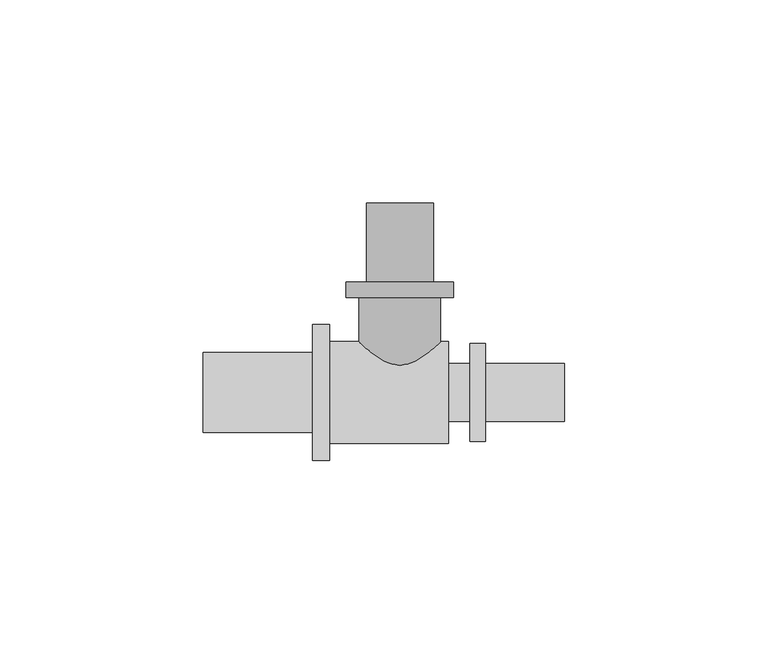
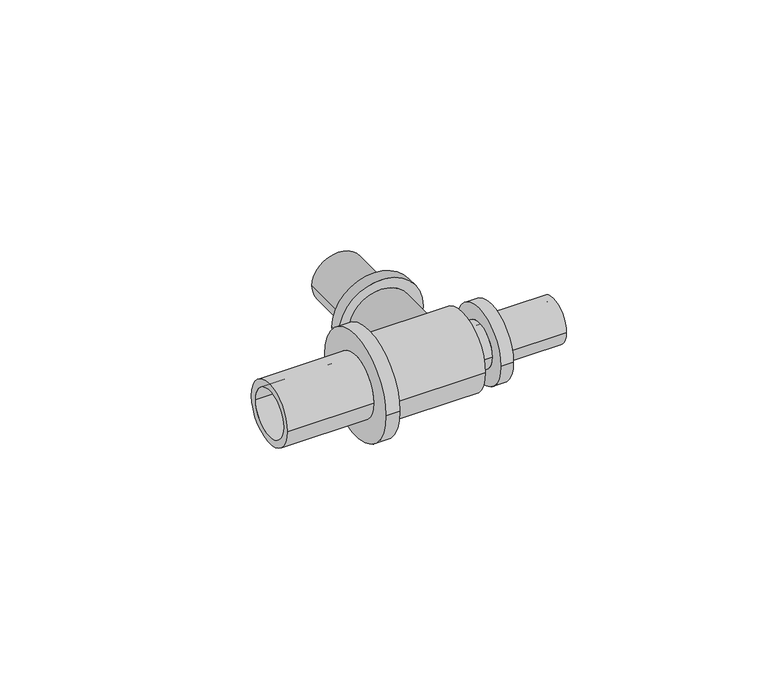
"""IFC4 building model written with IfcOpenShell, lengths in millimetres: pipe fitting geometry, RAUTITAN_T-piece_LX : RTI LX T DN."""

import ifcopenshell
import ifcopenshell.guid

model = None  # the IFC model being written
_history = None  # IfcOwnerHistory: only IFC2X3 demands one
_inside = {}  # id of a spatial element -> (the spatial element, [elements in it])
_under = {}  # id of a project, library or spatial element -> (it, [spatial elements below it])
_declared = {}  # id of a project -> (the project, [libraries it declares])
_typed = {}  # id of a type object -> (the type object, [elements of that type])
_made_of = {}  # id of a material, layer set ... -> (it, [elements and type objects made of it])


def new_model(schema):
    """Start an empty IFC model of exactly this schema.

    Asked for "IFC4X3", IfcOpenShell would pick the latest addendum, in which some entities
    have other attributes; the version numbers below select the first issue.
    IFC2X3 requires an IfcOwnerHistory on every rooted entity: one is made here for all.
    """
    global model, _history
    if schema == "IFC4X3":
        model = ifcopenshell.file(schema_version=(4, 3, 0, 0))
    else:
        model = ifcopenshell.file(schema=schema)
    _inside.clear()
    _under.clear()
    _declared.clear()
    _typed.clear()
    _made_of.clear()
    _history = None
    if model.schema == "IFC2X3":
        org = make("IfcOrganization", Name="unknown")
        user = make(
            "IfcPersonAndOrganization",
            ThePerson=make("IfcPerson", FamilyName="unknown"),
            TheOrganization=org,
        )
        app = make(
            "IfcApplication",
            ApplicationDeveloper=org,
            Version="unknown",
            ApplicationFullName="unknown",
            ApplicationIdentifier="unknown",
        )
        _history = make(
            "IfcOwnerHistory",
            OwningUser=user,
            OwningApplication=app,
            ChangeAction="ADDED",
            CreationDate=0,
        )
    return model


def make(cls, **values):
    """One entity of the class cls with the attributes given. An attribute that is None is left unset."""
    return model.create_entity(
        cls, **{name: value for name, value in values.items() if value is not None}
    )


def rooted(cls, **values):
    """An entity with a GlobalId (a new one), such as an element, a storey or a relation."""
    return make(cls, GlobalId=ifcopenshell.guid.new(), OwnerHistory=_history, **values)


def si_unit(unit_type, name, prefix=None):
    """IfcSIUnit, for example si_unit("LENGTHUNIT", "METRE", prefix="MILLI")."""
    return make("IfcSIUnit", UnitType=unit_type, Prefix=prefix, Name=name)


def assignment(units):
    """IfcUnitAssignment: the units of a project."""
    return None if units is None else make("IfcUnitAssignment", Units=units)


def point(xyz):
    """IfcCartesianPoint."""
    return None if xyz is None else make("IfcCartesianPoint", Coordinates=xyz)


def direction(xyz):
    """IfcDirection."""
    return None if xyz is None else make("IfcDirection", DirectionRatios=xyz)


def frame(location, z_axis=None, x_axis=None):
    """IfcAxis2Placement3D, a coordinate frame: its origin and axes. An axis left out is left unset."""
    return make(
        "IfcAxis2Placement3D",
        Location=point(location),
        Axis=direction(z_axis),
        RefDirection=direction(x_axis),
    )


def origin():
    """The frame at (0, 0, 0) with its axes left unset."""
    return frame((0.0, 0.0, 0.0))


def place(relative_to, where):
    """IfcLocalPlacement: puts the frame where relative to a parent placement (None: the world)."""
    return make(
        "IfcLocalPlacement", PlacementRelTo=relative_to, RelativePlacement=where
    )


def context(
    kind, dimensions, precision=None, world=None, true_north=None, identifier=None
):
    """IfcGeometricRepresentationContext, for example the 3D "Model" context."""
    return make(
        "IfcGeometricRepresentationContext",
        ContextIdentifier=identifier,
        ContextType=kind,
        CoordinateSpaceDimension=dimensions,
        Precision=precision,
        WorldCoordinateSystem=world,
        TrueNorth=true_north,
    )


def project(units=None, contexts=None):
    """IfcProject with its units and contexts."""
    return rooted(
        "IfcProject",
        Name="project",
        RepresentationContexts=contexts,
        UnitsInContext=assignment(units),
    )


def spatial(cls, under=None, at=None, **own):
    """A site, building, storey or space (cls), placed at a placement, below another one or the project."""
    s = rooted(cls, ObjectPlacement=at, **own)
    if under is not None:
        _under.setdefault(under.id(), (under, []))[1].append(s)
    return s


def polyline(points):
    """IfcPolyline through the points."""
    return make("IfcPolyline", Points=[point(p) for p in points])


def circle_curve(where, radius):
    """IfcCircle in the frame where."""
    return make("IfcCircle", Position=where, Radius=radius)


def shape(context_of_items, identifier, shape_type, items):
    """IfcShapeRepresentation: the items that make up one representation, for example the "Body"."""
    return make(
        "IfcShapeRepresentation",
        ContextOfItems=context_of_items,
        RepresentationIdentifier=identifier,
        RepresentationType=shape_type,
        Items=items,
    )


def source(mapping_origin, context_of_items, identifier, shape_type, items):
    """IfcRepresentationMap: a shape defined once, which mapped items show again and again."""
    return make(
        "IfcRepresentationMap",
        MappingOrigin=mapping_origin,
        MappedRepresentation=shape(context_of_items, identifier, shape_type, items),
    )


def transform(
    local_origin,
    x_axis=None,
    y_axis=None,
    z_axis=None,
    scale=None,
    scale2=None,
    scale3=None,
    uniform=True,
):
    """IfcCartesianTransformationOperator3D, or its non-uniform kind. x_axis, y_axis, z_axis: its Axis1, 2, 3."""
    if uniform:
        return make(
            "IfcCartesianTransformationOperator3D",
            Axis1=direction(x_axis),
            Axis2=direction(y_axis),
            LocalOrigin=point(local_origin),
            Scale=scale,
            Axis3=direction(z_axis),
        )
    return make(
        "IfcCartesianTransformationOperator3DnonUniform",
        Axis1=direction(x_axis),
        Axis2=direction(y_axis),
        LocalOrigin=point(local_origin),
        Scale=scale,
        Axis3=direction(z_axis),
        Scale2=scale2,
        Scale3=scale3,
    )


def mapped(mapping_source, mapping_target):
    """IfcMappedItem: shows the shape of a source again, moved by a transform."""
    return make(
        "IfcMappedItem", MappingSource=mapping_source, MappingTarget=mapping_target
    )


def made_of(thing, what):
    """Note that an element or type object is made of a material, layer set ...; save() writes the relation."""
    if what is not None:
        _made_of.setdefault(what.id(), (what, []))[1].append(thing)
    return thing


def element(
    cls,
    number,
    at=None,
    inside=None,
    cuts=None,
    type_object=None,
    material=None,
    context=None,
    identifier="Body",
    shape_type=None,
    held_by="IfcProductDefinitionShape",
    body=None,
    shapes=None,
    **own,
):
    """One element of the class cls, such as IfcWall. Its Tag is "e" and its number.

    at: its placement. inside: the storey or other place that contains it. cuts: it is an
    opening in that element (IfcRelVoidsElement). A single representation is given by context,
    identifier, shape_type and body (its items); several are given by shapes. held_by: the class
    of the entity that holds the representations. save() writes the other relations.
    """
    e = rooted(cls, Tag="e%d" % number, ObjectPlacement=at, **own)
    if body is not None:
        shapes = [shape(context, identifier, shape_type, body)]
    if shapes is not None:
        e.Representation = make(held_by, Representations=shapes)
    if inside is not None:
        _inside.setdefault(inside.id(), (inside, []))[1].append(e)
    if cuts is not None:
        rooted(
            "IfcRelVoidsElement", RelatingBuildingElement=cuts, RelatedOpeningElement=e
        )
    if type_object is not None:
        _typed.setdefault(type_object.id(), (type_object, []))[1].append(e)
    return made_of(e, material)


def aggregate(whole, parts):
    """IfcRelAggregates: a whole, such as a stair, and the parts it consists of."""
    return rooted("IfcRelAggregates", RelatingObject=whole, RelatedObjects=parts)


def save(model, path):
    """Write the relations noted so far, then the file.

    IfcRelAggregates (storeys below a building ...), IfcRelContainedInSpatialStructure (elements
    in a storey), IfcRelDefinesByType, IfcRelAssociatesMaterial and IfcRelDeclares: one each for
    every whole, place, type object, material and project.
    """
    for whole, parts in _under.values():
        aggregate(whole, parts)
    for where, things in _inside.values():
        rooted(
            "IfcRelContainedInSpatialStructure",
            RelatedElements=things,
            RelatingStructure=where,
        )
    for kind, things in _typed.values():
        rooted("IfcRelDefinesByType", RelatedObjects=things, RelatingType=kind)
    for what, things in _made_of.values():
        rooted("IfcRelAssociatesMaterial", RelatedObjects=things, RelatingMaterial=what)
    for by, libraries in _declared.values():
        rooted("IfcRelDeclares", RelatingContext=by, RelatedDefinitions=libraries)
    model.write(path)


def plane_surface(at):
    """IfcPlane: the flat surface through the origin of the frame at, square to its z axis."""
    return make("IfcPlane", Position=at)


def cylinder_surface(at, radius):
    """IfcCylindricalSurface: all points at the distance radius from the z axis of the frame at."""
    return make("IfcCylindricalSurface", Position=at, Radius=radius)


def revolved_surface(curve, axis_point, axis_direction):
    """IfcSurfaceOfRevolution: the curve turned about the line through axis_point along axis_direction."""
    return make(
        "IfcSurfaceOfRevolution",
        SweptCurve=make("IfcArbitraryOpenProfileDef", ProfileType="CURVE", Curve=curve),
        AxisPosition=make("IfcAxis1Placement", Location=point(axis_point), Axis=direction(axis_direction)),
    )


def advanced_brep(points, edges, surfaces, faces):
    """IfcAdvancedBrep: a solid bounded by faces that lie on surfaces and meet in shared edges.

    An edge is (start, end): straight between two places in points (the first is 0);
    or (start, end, curve); or (start, end, curve, False) where it runs against its curve.
    A face is (place in surfaces, loops), or (place, loops, False) where it looks against
    its surface's normal. A loop lists edges by number (the first is 1), with a minus sign
    where the edge is run from its end to its start. The first loop is the outer one.
    """
    corners = [point(p) for p in points]
    vertices = [make("IfcVertexPoint", VertexGeometry=c) for c in corners]
    made = []
    for start, end, *more in edges:
        made.append(
            make(
                "IfcEdgeCurve",
                EdgeStart=vertices[start],
                EdgeEnd=vertices[end],
                EdgeGeometry=more[0] if more else make("IfcPolyline", Points=[corners[start], corners[end]]),
                SameSense=more[1] if len(more) > 1 else True,
            )
        )
    hull = []
    for where, loops, *sense in faces:
        bounds = []
        for j, loop in enumerate(loops):
            ring = [make("IfcOrientedEdge", EdgeElement=made[abs(k) - 1], Orientation=k > 0) for k in loop]
            bounds.append(
                make(
                    "IfcFaceOuterBound" if j == 0 else "IfcFaceBound",
                    Bound=make("IfcEdgeLoop", EdgeList=ring),
                    Orientation=True,
                )
            )
        hull.append(make("IfcAdvancedFace", Bounds=bounds, FaceSurface=surfaces[where], SameSense=sense[0] if sense else True))
    return make("IfcAdvancedBrep", Outer=make("IfcClosedShell", CfsFaces=hull))


def pipe_fitting_918ed5ed(model_context):
    return source(origin(), model_context, "Body", "AdvancedBrep", [
        advanced_brep(
        [(-10.05, 23.4, 0.0), (10.05, 23.4, 0.0), (10.05, 0.0, 0.0), (-10.05, 0.0, 0.0), (-13.25, 27.2, 0.0), (13.25, 27.2, 0.0), (13.25, 23.4, 0.0), (-13.25, 23.4, 0.0), (-8.25, 46.7, 0.0), (8.25, 46.7, 0.0), (8.25, 27.2, 0.0), (-8.25, 27.2, 0.0), (-6.25, 0.0, 0.0), (6.25, 0.0, 0.0), (6.25, 46.7, 0.0), (-6.25, 46.7, 0.0)],
        [
            (0, 1, circle_curve(frame((0.0, 23.4, 0.0), z_axis=(0.0, -1.0, 0.0), x_axis=(1.0, 0.0, 0.0)), 10.05)),
            (1, 2),
            (2, 3, circle_curve(frame((0.0, 0.0, 0.0), z_axis=(0.0, 1.0, 0.0), x_axis=(1.0, 0.0, 0.0)), 10.05)),
            (3, 0),
            (4, 5, circle_curve(frame((0.0, 27.2, 0.0), z_axis=(0.0, -1.0, 0.0), x_axis=(1.0, 0.0, 0.0)), 13.25)),
            (5, 6),
            (6, 7, circle_curve(frame((0.0, 23.4, 0.0), z_axis=(0.0, 1.0, 0.0), x_axis=(1.0, 0.0, 0.0)), 13.25)),
            (7, 4),
            (8, 9, circle_curve(frame((0.0, 46.7, 0.0), z_axis=(0.0, -1.0, 0.0), x_axis=(1.0, 0.0, 0.0)), 8.25)),
            (9, 10),
            (10, 11, circle_curve(frame((0.0, 27.2, 0.0), z_axis=(0.0, 1.0, 0.0), x_axis=(1.0, 0.0, 0.0)), 8.25)),
            (11, 8),
            (12, 13, circle_curve(frame((0.0, 0.0, 0.0), z_axis=(0.0, -1.0, 0.0), x_axis=(1.0, 0.0, 0.0)), 6.25)),
            (13, 14),
            (14, 15, circle_curve(frame((0.0, 46.7, 0.0), z_axis=(0.0, 1.0, 0.0), x_axis=(1.0, 0.0, 0.0)), 6.25)),
            (15, 12),
            (1, 0, circle_curve(frame((0.0, 23.4, 0.0), z_axis=(0.0, -1.0, 0.0), x_axis=(-1.0, 0.0, 0.0)), 10.05)),
            (3, 2, circle_curve(frame((0.0, 0.0, 0.0), z_axis=(0.0, 1.0, 0.0), x_axis=(-1.0, 0.0, 0.0)), 10.05)),
            (6, 7, circle_curve(frame((0.0, 23.4, 0.0), z_axis=(0.0, -1.0, 0.0), x_axis=(-1.0, 0.0, 0.0)), 13.25)),
            (5, 4, circle_curve(frame((0.0, 27.2, 0.0), z_axis=(0.0, -1.0, 0.0), x_axis=(-1.0, 0.0, 0.0)), 13.25)),
            (10, 11, circle_curve(frame((0.0, 27.2, 0.0), z_axis=(0.0, -1.0, 0.0), x_axis=(-1.0, 0.0, 0.0)), 8.25)),
            (9, 8, circle_curve(frame((0.0, 46.7, 0.0), z_axis=(0.0, -1.0, 0.0), x_axis=(-1.0, 0.0, 0.0)), 8.25)),
            (14, 15, circle_curve(frame((0.0, 46.7, 0.0), z_axis=(0.0, -1.0, 0.0), x_axis=(-1.0, 0.0, 0.0)), 6.25)),
            (13, 12, circle_curve(frame((0.0, 0.0, 0.0), z_axis=(0.0, -1.0, 0.0), x_axis=(-1.0, 0.0, 0.0)), 6.25)),
        ],
        [
            cylinder_surface(frame((0.0, 0.0, 0.0), z_axis=(0.0, 1.0, 0.0), x_axis=(1.0, 0.0, 0.0)), 10.05),
            cylinder_surface(frame((0.0, 0.0, 0.0), z_axis=(0.0, 1.0, 0.0), x_axis=(1.0, 0.0, 0.0)), 13.25),
            cylinder_surface(frame((0.0, 0.0, 0.0), z_axis=(0.0, 1.0, 0.0), x_axis=(1.0, 0.0, 0.0)), 8.25),
            revolved_surface(polyline([(6.25, 46.7, 0.0), (6.25, 0.0, 0.0)]), (0.0, 0.0, 0.0), (0.0, 1.0, 0.0)),
            cylinder_surface(frame((0.0, 0.0, 0.0), z_axis=(0.0, 1.0, 0.0), x_axis=(-1.0, 0.0, 0.0)), 10.05),
            plane_surface(frame((0.0, 23.4, 0.0), z_axis=(0.0, -1.0, 0.0), x_axis=(-1.0, 0.0, 0.0))),
            cylinder_surface(frame((0.0, 0.0, 0.0), z_axis=(0.0, 1.0, 0.0), x_axis=(-1.0, 0.0, 0.0)), 13.25),
            plane_surface(frame((0.0, 27.2, 0.0), z_axis=(0.0, 1.0, 0.0), x_axis=(-1.0, 0.0, 0.0))),
            cylinder_surface(frame((0.0, 0.0, 0.0), z_axis=(0.0, 1.0, 0.0), x_axis=(-1.0, 0.0, 0.0)), 8.25),
            plane_surface(frame((0.0, 46.7, 0.0), z_axis=(0.0, 1.0, 0.0), x_axis=(-1.0, 0.0, 0.0))),
            revolved_surface(polyline([(-6.25, 46.7, 0.0), (-6.25, 0.0, 0.0)]), (0.0, 0.0, 0.0), (0.0, 1.0, 0.0)),
            plane_surface(frame((0.0, 0.0, 0.0), z_axis=(0.0, -1.0, 0.0), x_axis=(-1.0, 0.0, 0.0))),
        ],
        [
            (0, [[1, 2, 3, 4]]),
            (1, [[5, 6, 7, 8]]),
            (2, [[9, 10, 11, 12]]),
            (3, [[13, 14, 15, 16]]),
            (4, [[17, -4, 18, -2]]),
            (5, [[19, -7], [-17, -1]]),
            (6, [[20, -8, -19, -6]]),
            (7, [[-20, -5], [21, -11]]),
            (8, [[22, -12, -21, -10]]),
            (9, [[-22, -9], [23, -15]]),
            (10, [[24, -16, -23, -14]]),
            (11, [[-18, -3], [-24, -13]]),
        ],
    ),
        advanced_brep(
        [(-48.5, 7.6, 0.0), (-48.5, -7.6, 0.0), (10.05, -7.6, 0.0), (10.05, 7.6, 0.0), (12.05, 12.5, 0.0), (12.05, -12.5, 0.0), (-17.3, -12.5, 0.0), (-17.3, 12.5, 0.0), (-17.3, 16.8, 0.0), (-17.3, -16.8, 0.0), (-21.5, -16.8, 0.0), (-21.5, 16.8, 0.0), (-21.5, 9.9, 0.0), (-21.5, -9.9, 0.0), (-48.5, -9.9, 0.0), (-48.5, 9.9, 0.0), (10.05, 5.1, 0.0), (10.05, -5.1, 0.0), (40.6, -5.1, 0.0), (40.6, 5.1, 0.0), (40.6, 7.1, 0.0), (40.6, -7.1, 0.0), (21.1, -7.1, 0.0), (21.1, 7.1, 0.0), (21.1, 12.1, 0.0), (21.1, -12.1, 0.0), (17.3, -12.1, 0.0), (17.3, 12.1, 0.0), (17.3, 7.1, 0.0), (17.3, -7.1, 0.0), (12.05, -7.1, 0.0), (12.05, 7.1, 0.0)],
        [
            (0, 1, circle_curve(frame((-48.5, 0.0, 0.0), z_axis=(-1.0, 0.0, 0.0), x_axis=(0.0, -1.0, 0.0)), 7.6)),
            (1, 2),
            (2, 3, circle_curve(frame((10.05, 0.0, 0.0), z_axis=(1.0, 0.0, 0.0), x_axis=(0.0, -1.0, 0.0)), 7.6)),
            (3, 0),
            (4, 5, circle_curve(frame((12.05, 0.0, 0.0), z_axis=(-1.0, 0.0, 0.0), x_axis=(0.0, -1.0, 0.0)), 12.5)),
            (5, 6),
            (6, 7, circle_curve(frame((-17.3, 0.0, 0.0), z_axis=(1.0, 0.0, 0.0), x_axis=(0.0, -1.0, 0.0)), 12.5)),
            (7, 4),
            (1, 0, circle_curve(frame((-48.5, 0.0, 0.0), z_axis=(-1.0, 0.0, 0.0), x_axis=(0.0, 1.0, 0.0)), 7.6)),
            (3, 2, circle_curve(frame((10.05, 0.0, 0.0), z_axis=(1.0, 0.0, 0.0), x_axis=(0.0, 1.0, 0.0)), 7.6)),
            (5, 4, circle_curve(frame((12.05, 0.0, 0.0), z_axis=(-1.0, 0.0, 0.0), x_axis=(0.0, 1.0, 0.0)), 12.5)),
            (7, 6, circle_curve(frame((-17.3, 0.0, 0.0), z_axis=(1.0, 0.0, 0.0), x_axis=(0.0, 1.0, 0.0)), 12.5)),
            (8, 9, circle_curve(frame((-17.3, 0.0, 0.0), z_axis=(-1.0, 0.0, 0.0), x_axis=(0.0, -1.0, 0.0)), 16.8)),
            (9, 10),
            (10, 11, circle_curve(frame((-21.5, 0.0, 0.0), z_axis=(1.0, 0.0, 0.0), x_axis=(0.0, -1.0, 0.0)), 16.8)),
            (11, 8),
            (12, 13, circle_curve(frame((-21.5, 0.0, 0.0), z_axis=(-1.0, 0.0, 0.0), x_axis=(0.0, -1.0, 0.0)), 9.9)),
            (13, 14),
            (14, 15, circle_curve(frame((-48.5, 0.0, 0.0), z_axis=(1.0, 0.0, 0.0), x_axis=(0.0, -1.0, 0.0)), 9.9)),
            (15, 12),
            (8, 9, circle_curve(frame((-17.3, 0.0, 0.0), z_axis=(1.0, 0.0, 0.0), x_axis=(0.0, 1.0, 0.0)), 16.8)),
            (11, 10, circle_curve(frame((-21.5, 0.0, 0.0), z_axis=(1.0, 0.0, 0.0), x_axis=(0.0, 1.0, 0.0)), 16.8)),
            (12, 13, circle_curve(frame((-21.5, 0.0, 0.0), z_axis=(1.0, 0.0, 0.0), x_axis=(0.0, 1.0, 0.0)), 9.9)),
            (15, 14, circle_curve(frame((-48.5, 0.0, 0.0), z_axis=(1.0, 0.0, 0.0), x_axis=(0.0, 1.0, 0.0)), 9.9)),
            (16, 17, circle_curve(frame((10.05, 0.0, 0.0), z_axis=(-1.0, 0.0, 0.0), x_axis=(0.0, -1.0, 0.0)), 5.1)),
            (17, 18),
            (18, 19, circle_curve(frame((40.6, 0.0, 0.0), z_axis=(1.0, 0.0, 0.0), x_axis=(0.0, -1.0, 0.0)), 5.1)),
            (19, 16),
            (20, 21, circle_curve(frame((40.6, 0.0, 0.0), z_axis=(-1.0, 0.0, 0.0), x_axis=(0.0, -1.0, 0.0)), 7.1)),
            (21, 22),
            (22, 23, circle_curve(frame((21.1, 0.0, 0.0), z_axis=(1.0, 0.0, 0.0), x_axis=(0.0, -1.0, 0.0)), 7.1)),
            (23, 20),
            (24, 25, circle_curve(frame((21.1, 0.0, 0.0), z_axis=(-1.0, 0.0, 0.0), x_axis=(0.0, -1.0, 0.0)), 12.1)),
            (25, 26),
            (26, 27, circle_curve(frame((17.3, 0.0, 0.0), z_axis=(1.0, 0.0, 0.0), x_axis=(0.0, -1.0, 0.0)), 12.1)),
            (27, 24),
            (28, 29, circle_curve(frame((17.3, 0.0, 0.0), z_axis=(-1.0, 0.0, 0.0), x_axis=(0.0, -1.0, 0.0)), 7.1)),
            (29, 30),
            (30, 31, circle_curve(frame((12.05, 0.0, 0.0), z_axis=(1.0, 0.0, 0.0), x_axis=(0.0, -1.0, 0.0)), 7.1)),
            (31, 28),
            (16, 17, circle_curve(frame((10.05, 0.0, 0.0), z_axis=(1.0, 0.0, 0.0), x_axis=(0.0, 1.0, 0.0)), 5.1)),
            (19, 18, circle_curve(frame((40.6, 0.0, 0.0), z_axis=(1.0, 0.0, 0.0), x_axis=(0.0, 1.0, 0.0)), 5.1)),
            (20, 21, circle_curve(frame((40.6, 0.0, 0.0), z_axis=(1.0, 0.0, 0.0), x_axis=(0.0, 1.0, 0.0)), 7.1)),
            (23, 22, circle_curve(frame((21.1, 0.0, 0.0), z_axis=(1.0, 0.0, 0.0), x_axis=(0.0, 1.0, 0.0)), 7.1)),
            (24, 25, circle_curve(frame((21.1, 0.0, 0.0), z_axis=(1.0, 0.0, 0.0), x_axis=(0.0, 1.0, 0.0)), 12.1)),
            (27, 26, circle_curve(frame((17.3, 0.0, 0.0), z_axis=(1.0, 0.0, 0.0), x_axis=(0.0, 1.0, 0.0)), 12.1)),
            (28, 29, circle_curve(frame((17.3, 0.0, 0.0), z_axis=(1.0, 0.0, 0.0), x_axis=(0.0, 1.0, 0.0)), 7.1)),
            (31, 30, circle_curve(frame((12.05, 0.0, 0.0), z_axis=(1.0, 0.0, 0.0), x_axis=(0.0, 1.0, 0.0)), 7.1)),
        ],
        [
            revolved_surface(polyline([(10.05, -7.6, 0.0), (-48.5, -7.6, 0.0)]), (0.0, 0.0, 0.0), (1.0, 0.0, 0.0)),
            cylinder_surface(frame((0.0, 0.0, 0.0), z_axis=(1.0, 0.0, 0.0), x_axis=(0.0, -1.0, 0.0)), 12.5),
            revolved_surface(polyline([(10.05, 7.6, 0.0), (-48.5, 7.6, 0.0)]), (0.0, 0.0, 0.0), (1.0, 0.0, 0.0)),
            cylinder_surface(frame((0.0, 0.0, 0.0), z_axis=(1.0, 0.0, 0.0), x_axis=(0.0, 1.0, 0.0)), 12.5),
            cylinder_surface(frame((0.0, 0.0, 0.0), z_axis=(1.0, 0.0, 0.0), x_axis=(0.0, -1.0, 0.0)), 16.8),
            cylinder_surface(frame((0.0, 0.0, 0.0), z_axis=(1.0, 0.0, 0.0), x_axis=(0.0, -1.0, 0.0)), 9.9),
            plane_surface(frame((-17.3, 0.0, 0.0), z_axis=(1.0, 0.0, 0.0), x_axis=(0.0, 1.0, 0.0))),
            cylinder_surface(frame((0.0, 0.0, 0.0), z_axis=(1.0, 0.0, 0.0), x_axis=(0.0, 1.0, 0.0)), 16.8),
            plane_surface(frame((-21.5, 0.0, 0.0), z_axis=(-1.0, 0.0, 0.0), x_axis=(0.0, 1.0, 0.0))),
            cylinder_surface(frame((0.0, 0.0, 0.0), z_axis=(1.0, 0.0, 0.0), x_axis=(0.0, 1.0, 0.0)), 9.9),
            plane_surface(frame((-48.5, 0.0, 0.0), z_axis=(-1.0, 0.0, 0.0), x_axis=(0.0, 1.0, 0.0))),
            revolved_surface(polyline([(40.6, -5.1, 0.0), (10.05, -5.1, 0.0)]), (0.0, 0.0, 0.0), (1.0, 0.0, 0.0)),
            cylinder_surface(frame((0.0, 0.0, 0.0), z_axis=(1.0, 0.0, 0.0), x_axis=(0.0, -1.0, 0.0)), 7.1),
            cylinder_surface(frame((0.0, 0.0, 0.0), z_axis=(1.0, 0.0, 0.0), x_axis=(0.0, -1.0, 0.0)), 12.1),
            plane_surface(frame((10.05, 0.0, 0.0), z_axis=(-1.0, 0.0, 0.0), x_axis=(0.0, 1.0, 0.0))),
            revolved_surface(polyline([(40.6, 5.1, 0.0), (10.05, 5.1, 0.0)]), (0.0, 0.0, 0.0), (1.0, 0.0, 0.0)),
            plane_surface(frame((40.6, 0.0, 0.0), z_axis=(1.0, 0.0, 0.0), x_axis=(0.0, 1.0, 0.0))),
            cylinder_surface(frame((0.0, 0.0, 0.0), z_axis=(1.0, 0.0, 0.0), x_axis=(0.0, 1.0, 0.0)), 7.1),
            plane_surface(frame((21.1, 0.0, 0.0), z_axis=(1.0, 0.0, 0.0), x_axis=(0.0, 1.0, 0.0))),
            cylinder_surface(frame((0.0, 0.0, 0.0), z_axis=(1.0, 0.0, 0.0), x_axis=(0.0, 1.0, 0.0)), 12.1),
            plane_surface(frame((17.3, 0.0, 0.0), z_axis=(-1.0, 0.0, 0.0), x_axis=(0.0, 1.0, 0.0))),
            plane_surface(frame((12.05, 0.0, 0.0), z_axis=(1.0, 0.0, 0.0), x_axis=(0.0, 1.0, 0.0))),
        ],
        [
            (0, [[1, 2, 3, 4]]),
            (1, [[5, 6, 7, 8]]),
            (2, [[9, -4, 10, -2]]),
            (3, [[11, -8, 12, -6]]),
            (4, [[13, 14, 15, 16]]),
            (5, [[17, 18, 19, 20]]),
            (6, [[21, -13], [-12, -7]]),
            (7, [[-21, -16, 22, -14]]),
            (8, [[-22, -15], [23, -17]]),
            (9, [[-23, -20, 24, -18]]),
            (10, [[-24, -19], [-9, -1]]),
            (11, [[25, 26, 27, 28]]),
            (12, [[29, 30, 31, 32]]),
            (13, [[33, 34, 35, 36]]),
            (12, [[37, 38, 39, 40]]),
            (14, [[-10, -3], [41, -25]]),
            (15, [[-41, -28, 42, -26]]),
            (16, [[43, -29], [-42, -27]]),
            (17, [[-43, -32, 44, -30]]),
            (18, [[45, -33], [-44, -31]]),
            (19, [[-45, -36, 46, -34]]),
            (20, [[-46, -35], [47, -37]]),
            (17, [[-47, -40, 48, -38]]),
            (21, [[-11, -5], [-48, -39]]),
        ],
    ),
    ])


if __name__ == "__main__":
    model = new_model("IFC4")
    model_context = context("Model", 3, world=origin())
    ifc_project = project(units=[si_unit("LENGTHUNIT", "METRE", prefix="MILLI")], contexts=[model_context])
    site = spatial("IfcSite", under=ifc_project)
    building = spatial("IfcBuilding", under=site)
    placement = place(None, origin())
    pipe_fitting_shape = pipe_fitting_918ed5ed(model_context)
    element("IfcPipeFitting", 1, ObjectType="RAUTITAN_T-piece_LX : RTI LX T DN", at=placement, inside=building, context=model_context, shape_type="MappedRepresentation", body=[
        mapped(pipe_fitting_shape, transform((0.0, 0.0, 0.0), x_axis=(1.0, 0.0, 0.0), y_axis=(0.0, 1.0, 0.0), z_axis=(0.0, 0.0, 1.0))),
    ])
    save(model, "model.ifc")
